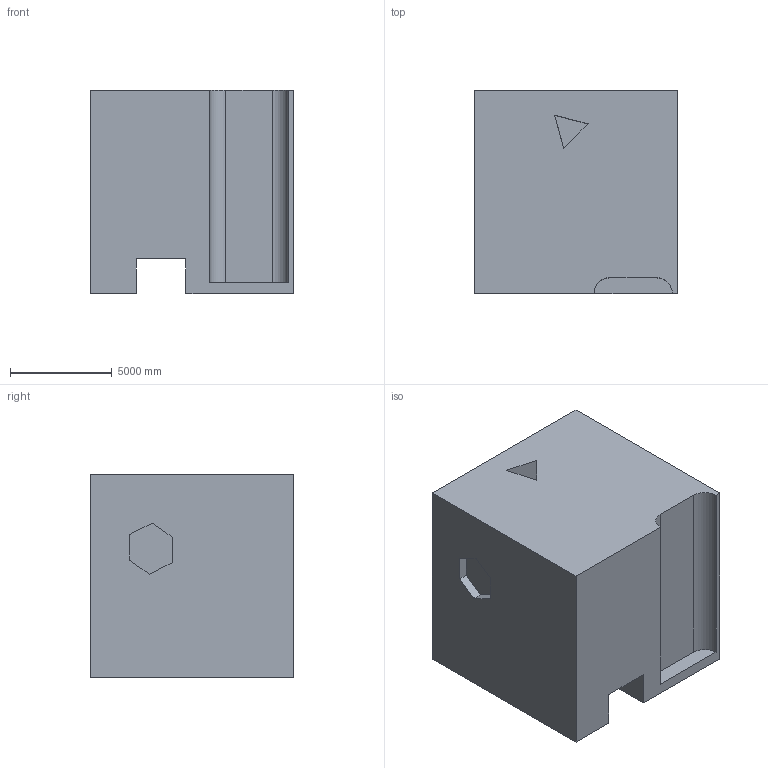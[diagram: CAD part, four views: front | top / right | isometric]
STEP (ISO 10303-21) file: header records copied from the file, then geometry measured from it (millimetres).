
FILE_DESCRIPTION (( 'STEP AP203' ), '1' );
FILE_NAME ('159.STEP', '2022-09-06T13:27:47', ( 'user' ), ( '' ), 'SwSTEP 2.0', 'SolidWorks 2021', '' );
FILE_SCHEMA (( 'CONFIG_CONTROL_DESIGN' ));
Length unit declared in the file: centimetre
Products named in the file (1): 159
Bounding box: 10000 x 10000 x 10000 mm (x, y, z)
Volume: 875429162206.2 mm3; surface area: 724220533.5 mm2
Topology: 1 solids, 1 shells, 37 faces, 102 edges, 68 vertices
Faces by surface type: plane 34, cylinder 3
Entity records: 1243 total; most frequent: CARTESIAN_POINT 220, ORIENTED_EDGE 204, DIRECTION 180, EDGE_CURVE 102, LINE 92, VECTOR 92, VERTEX_POINT 68, AXIS2_PLACEMENT_3D 44
